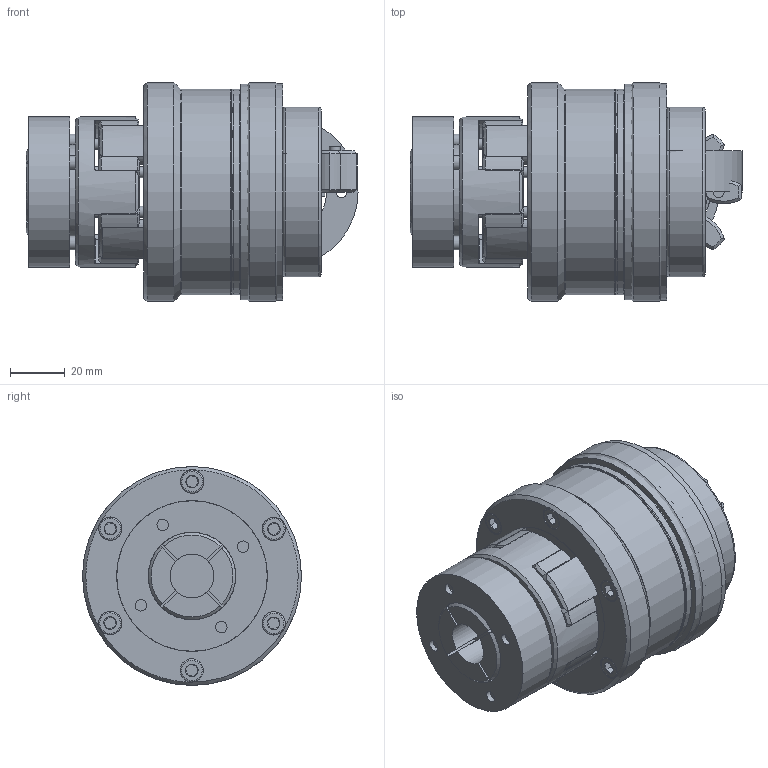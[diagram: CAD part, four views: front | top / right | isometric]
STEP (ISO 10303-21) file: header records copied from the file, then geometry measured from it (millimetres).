
FILE_DESCRIPTION( ( 'Unknown' ), '1' );
FILE_NAME( 'C:/Dokumente und Einstellungen/Sven/Desktop/hp kbk/E-AI/KBK EAI-24-91.stp', 'Unknown', ( 'Unknown' ), ( 'Unknown' ), 'XStep 1.0', 'Unknown', ' ' );
FILE_SCHEMA( ( 'automotive_design' ) );
Length unit declared in the file: millimetre
Products named in the file (19): Assem1; Assem2; Assem3; Zylinderschraube DIN 912_1; ball_bearing_-_6007_0_01; ball_bearing_-_6007_0_02; ball_bearing_-_6007_0_03; KBK L-I-60 Grundkörper; Konusbuchse 60; a_35; Stellring 60; Druckring 60; Flansch 60; din_en_24017_m6x20; Elastomerflansch 24; Zahnkranz_24_Standard; KBE3-24_Druckring; ISO EN DIN 4762_M5x20; KBE3 C - 24 Nabe
Bounding box: 121.3 x 80 x 80 mm (x, y, z)
Volume: 566482.7 mm3; surface area: 264161.4 mm2
Topology: 49 solids, 49 shells, 1274 faces, 2794 edges, 1731 vertices
Faces by surface type: plane 447, cone 387, cylinder 368, torus 72
Full cylindrical faces by diameter (mm): 2.5 x4, 3.242 x6, 4 x22, 4.134 x16, 4.2 x8, 4.917 x18, 4.959 x8, 5 x13, 5.2 x12, 6 x7, 6.6 x12, 8.5 x25, 8.8 x7, 9.5 x8, 15 x4, 16 x2, 27 x4, 30 x4, 30.2 x2, 33 x2, 34.625 x2, 35 x7, 43.7 x6, 44 x2, 46 x4, 46.5 x2, 49.5 x2, 53.6 x6, 55 x6, 61.3 x2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
Entity records: 13940 total; most frequent: CARTESIAN_POINT 3029, DIRECTION 2362, ORIENTED_EDGE 1834, AXIS2_PLACEMENT_3D 1094, EDGE_CURVE 917, EDGE_LOOP 762, VERTEX_POINT 641, FACE_OUTER_BOUND 609
